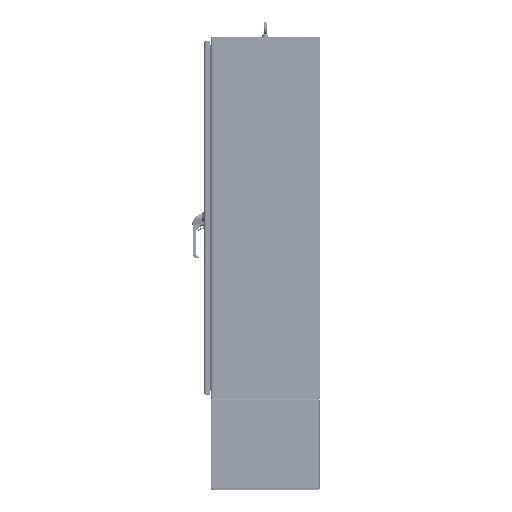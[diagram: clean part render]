
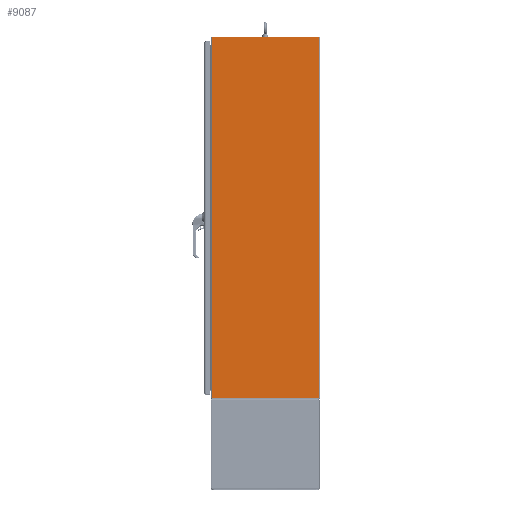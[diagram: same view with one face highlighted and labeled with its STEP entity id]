
A CAD part, top view. The second image highlights one B-rep face of the part: STEP entity #9087.
In plain terms, the highlighted planar face has unit normal (0, 0, 1) as drawn and (-1, 0, 0) by its records, which use the part's own axes.
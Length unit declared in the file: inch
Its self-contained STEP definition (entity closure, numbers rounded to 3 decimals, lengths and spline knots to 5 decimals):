
#7836=CARTESIAN_POINT('',(-3.6355,15.698,-0.0625));
#7837=DIRECTION('',(-1.,0.,0.));
#7838=DIRECTION('',(0.,0.,1.));
#7839=AXIS2_PLACEMENT_3D('',#7836,#7837,#7838);
#7844=CARTESIAN_POINT('',(-3.6355,15.698,-59.7295));
#7845=DIRECTION('',(-1.,0.,0.));
#7846=DIRECTION('',(0.,1.,0.));
#7847=AXIS2_PLACEMENT_3D('',#7844,#7845,#7846);
#7852=DIRECTION('',(0.,0.,-1.));
#7853=VECTOR('',#7852,59.667);
#7854=CARTESIAN_POINT('',(-3.6355,15.7605,-0.0625));
#7855=LINE('',#7854,#7853);
#7880=DIRECTION('',(0.,-1.,0.));
#7881=VECTOR('',#7880,17.639);
#7882=CARTESIAN_POINT('',(-3.6355,15.698,-59.792));
#7883=LINE('',#7882,#7881);
#7923=DIRECTION('',(0.,0.,-1.));
#7924=VECTOR('',#7923,59.792);
#7925=CARTESIAN_POINT('',(-3.6355,-1.941,0.));
#7926=LINE('',#7925,#7924);
#8100=DIRECTION('',(0.,-1.,0.));
#8101=VECTOR('',#8100,17.639);
#8102=CARTESIAN_POINT('',(-3.6355,15.698,0.));
#8103=LINE('',#8102,#8101);
#8896=CARTESIAN_POINT('',(-3.6355,-1.941,-59.792));
#8897=VERTEX_POINT('',#8896);
#8898=CARTESIAN_POINT('',(-3.6355,-1.941,0.));
#8899=VERTEX_POINT('',#8898);
#9012=CARTESIAN_POINT('',(-3.6355,15.698,0.));
#9013=CARTESIAN_POINT('',(-3.6355,15.7605,-0.0625));
#9014=VERTEX_POINT('',#9012);
#9015=VERTEX_POINT('',#9013);
#9020=CARTESIAN_POINT('',(-3.6355,15.7605,-59.7295));
#9021=VERTEX_POINT('',#9020);
#9064=CARTESIAN_POINT('',(-3.6355,15.698,-59.792));
#9065=VERTEX_POINT('',#9064);
#9068=CARTESIAN_POINT('',(-3.6355,15.7605,0.));
#9069=DIRECTION('',(-1.,0.,0.));
#9070=DIRECTION('',(0.,-1.,0.));
#9071=AXIS2_PLACEMENT_3D('',#9068,#9069,#9070);
#9072=PLANE('',#9071);
#9074=ORIENTED_EDGE('',*,*,#9073,.F.);
#9076=ORIENTED_EDGE('',*,*,#9075,.T.);
#9078=ORIENTED_EDGE('',*,*,#9077,.T.);
#9080=ORIENTED_EDGE('',*,*,#9079,.F.);
#9082=ORIENTED_EDGE('',*,*,#9081,.F.);
#9084=ORIENTED_EDGE('',*,*,#9083,.F.);
#9085=EDGE_LOOP('',(#9074,#9076,#9078,#9080,#9082,#9084));
#9086=FACE_OUTER_BOUND('',#9085,.F.);
#7840=CIRCLE('',#7839,0.0625);
#7848=CIRCLE('',#7847,0.0625);
#9073=EDGE_CURVE('',#9014,#9015,#7840,.T.);
#9075=EDGE_CURVE('',#9014,#8899,#8103,.T.);
#9077=EDGE_CURVE('',#8899,#8897,#7926,.T.);
#9079=EDGE_CURVE('',#9065,#8897,#7883,.T.);
#9081=EDGE_CURVE('',#9021,#9065,#7848,.T.);
#9083=EDGE_CURVE('',#9015,#9021,#7855,.T.);
#9087=ADVANCED_FACE('',(#9086),#9072,.T.);
